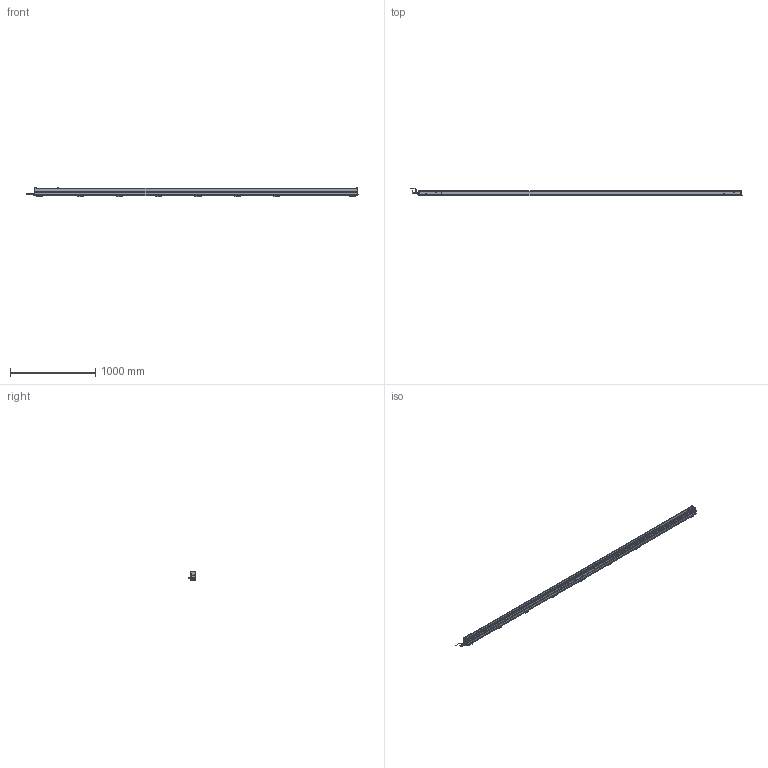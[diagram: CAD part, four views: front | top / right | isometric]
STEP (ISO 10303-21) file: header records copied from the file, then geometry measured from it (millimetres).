
FILE_DESCRIPTION(/* description */ (''),/* implementation_level */ '2;1');
FILE_NAME(/* name */ 'THUNDERION2_3D_3625-3820',/* time_stamp */ '2017-09-28T12:40:55+02:00',/* author */ (''),/* organization */ (''),/* preprocessor_version */ 'ST-DEVELOPER v15.7',/* originating_system */ 'HiCAD 2015 2002.1 Build 408',/* authorisation */ '');
FILE_SCHEMA (('AUTOMOTIVE_DESIGN { 1 0 10303 214 1 1 1 1 }'));
Products named in the file (136): Root; -_ThunderION 3625/3820; -_Side profile; -_Bar; -_Connector straight; EXTRUDED SOLID_0; -_Cord; REVOLVED SOLID_1; REVOLVED SOLID_3; DIN 13-M12x1,5; -_Connector angled; REVOLVED SOLID_2; 4532000100_Mounting bracket bars; -_Side piece; -_Slide piece; -_Bracket small; DIN 13-M3; DIN 76-M3; -_Cable End; light pipe M; light pipe L; -_Cap CE; -_Stud M4; -_Connector M12 male 5 pole_1; -_Contacts; ABSR_1_2_1_1_Inner part; ABSR_1_2_1_2_Inner part; bus; Pg 9; -_Ring tongue terminal; 9230000020_Nut M4; GEWINDE; 9240100020_Spring washer M4; ISO 7051-ST3.5x9.5-C-H_Tapping screws_0; -_Fill; -_Dead end; -_Cap DE; -_Emitter; -_Support Side Profile; -_End Plate
Assembly tree (135 placements, depth 6):
  Root
    -_ThunderION 3625/3820
      -_Side profile
      -_Side profile
      -_Bar
      -_Connector straight
        EXTRUDED SOLID_0
        -_Cord
        REVOLVED SOLID_1
        REVOLVED SOLID_3
          DIN 13-M12x1,5
      -_Connector angled
        REVOLVED SOLID_1
        EXTRUDED SOLID_0
        -_Cord
        REVOLVED SOLID_2
        REVOLVED SOLID_3
          DIN 13-M12x1,5
      4532000100_Mounting bracket bars
        -_Side piece
        -_Side piece
        -_Slide piece
        -_Bracket small
          DIN 13-M3
          DIN 13-M3
          DIN 76-M3
          DIN 76-M3
      4532000100_Mounting bracket bars
        -_Side piece
        -_Side piece
        -_Slide piece
        -_Bracket small
          DIN 13-M3
          DIN 13-M3
          DIN 76-M3
          DIN 76-M3
      4532000100_Mounting bracket bars
        -_Side piece
        -_Side piece
        -_Slide piece
        -_Bracket small
          DIN 13-M3
          DIN 13-M3
          DIN 76-M3
          DIN 76-M3
      4532000100_Mounting bracket bars
        -_Side piece
        -_Side piece
        -_Slide piece
        -_Bracket small
          DIN 13-M3
          DIN 13-M3
          DIN 76-M3
          DIN 76-M3
      4532000100_Mounting bracket bars
        -_Side piece
        -_Side piece
        -_Slide piece
        -_Bracket small
          DIN 13-M3
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Bounding box: 3898.34 x 92.22 x 113 mm (x, y, z)
Volume: 12044156.8 mm3; surface area: 2751577.3 mm2
Topology: 125 solids, 149 shells, 6779 faces, 17287 edges, 10425 vertices
Faces by surface type: plane 2767, cylinder 2754, bspline 376, torus 370, sphere 331, cone 181
Full cylindrical faces by diameter (mm): 0.8 x10, 1 x10, 2.387 x32, 2.5 x1, 2.64 x16, 3 x64, 3.141 x2, 3.5 x8, 4 x26, 4.2 x3, 4.4 x1, 5 x4, 5.5 x40, 7.3 x8, 8 x2, 8.4 x2, 9 x6, 9.6 x1, 10 x2, 10.16 x1, 10.5 x2, 11 x4, 12 x5, 12.8 x1, 13.8 x4, 13.86 x1, 14.5 x3, 15.199 x1, 15.2 x1
Entity records: 395991 total; most frequent: CARTESIAN_POINT 105810, DIRECTION 33565, PRESENTATION_STYLE_ASSIGNMENT 32755, OVER_RIDING_STYLED_ITEM 32634, DRAUGHTING_PRE_DEFINED_CURVE_FONT 32582, CURVE_STYLE 32582, ORIENTED_EDGE 32582, EDGE_CURVE 16291
